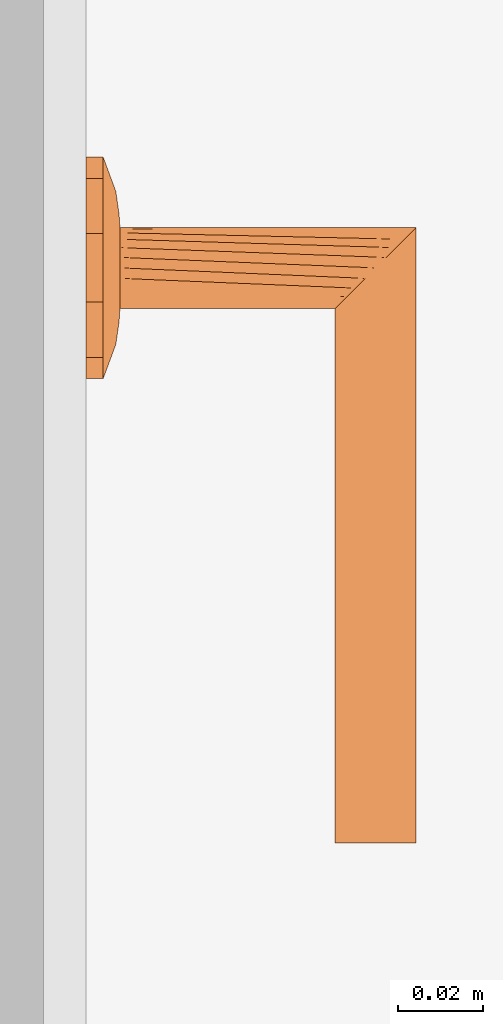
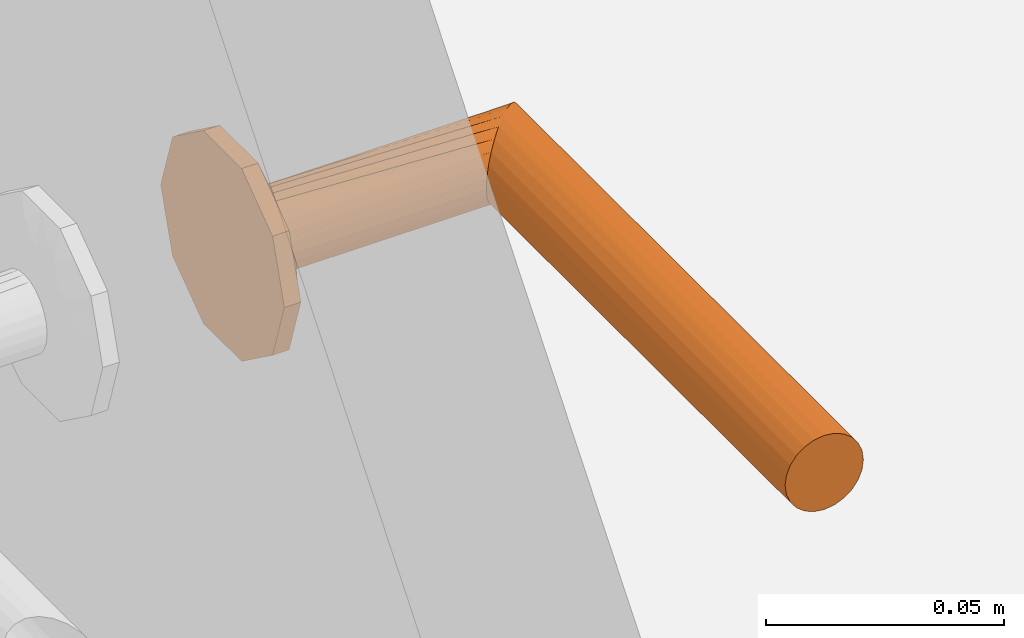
# One storey, part 49 of 68: 1 proxy.
"""IFC2X3 building model written with IfcOpenShell, lengths in millimetres."""

from ifc_helpers import new_model, entity, si_unit, converted_unit, direction, frame, origin, place, context, subcontext, project, spatial, faceted_brep, source, transform, mapped, material, type_object, type_shapes, element, save


model = new_model("IFC2X3")

# Units and contexts
model_context = context("Model", 3, precision=0.01, world=origin(), true_north=direction((6.123233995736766e-17, 1.0)))
plan_context = context("Plan", 3, precision=0.01, world=origin(), true_north=direction((6.123233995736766e-17, 1.0)))
body_context = subcontext(model_context, "Body", "Model", "MODEL_VIEW")
ifc_project = project(units=[si_unit("LENGTHUNIT", "METRE", prefix="MILLI"), converted_unit("PLANEANGLEUNIT", "DEGREE", entity("IfcPlaneAngleMeasure", 0.017453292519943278), si_unit("PLANEANGLEUNIT", "RADIAN"), dimensions=[0, 0, 0, 0, 0, 0, 0]), si_unit("AREAUNIT", "SQUARE_METRE")], contexts=[model_context, plan_context])

# Site, building, storey, space
site_placement = place(None, origin())
site = spatial("IfcSite", under=ifc_project, at=site_placement, Name="Default", CompositionType="ELEMENT")
building_placement = place(site_placement, origin())
building = spatial("IfcBuilding", under=site, at=building_placement, CompositionType="ELEMENT")
storey_placement = place(building_placement, frame((0.0, 0.0, 6295.0)))
storey = spatial("IfcBuildingStorey", under=building, at=storey_placement, Name="3K", CompositionType="ELEMENT", Elevation=6294.999999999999)
space_placement = place(storey_placement, origin())
space = spatial("IfcSpace", under=storey, at=space_placement, Name="3-5.3", CompositionType="ELEMENT", InteriorOrExteriorSpace="INTERNAL")

# Proxy
ifc_material = material(Name="<Unnamed>")
building_element_proxy_type = type_object("IfcBuildingElementProxyType", Name="Door-handle_Lever_ABLOY_INOXI_3-19ss-002_RT:Default", PredefinedType="NOTDEFINED", material=ifc_material)
shared_shape = source(origin(), body_context, "Body", "Brep", [
    faceted_brep([(0.0, 0.0, 0.0), (21.034441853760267, -15.282416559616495, 0.0), (14.534441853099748, -20.00494299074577, 0.0), (8.034441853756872, -24.72746942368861, 0.0), (0.0, -24.72746942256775, 0.0), (23.51722092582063, -7.6412082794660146, 0.0), (26.0, 0.0, 0.0), (-8.034441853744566, -24.727469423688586, 0.0), (-14.534441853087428, -20.00494299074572, 0.0), (-21.03444185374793, -15.282416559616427, 0.0), (-23.517220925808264, -7.641208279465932, 0.0), (-26.0, 0.0, 0.0), (-23.517220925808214, 7.641208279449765, 0.0), (23.517220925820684, 7.641208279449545, 0.0), (21.034441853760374, 15.282416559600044, 0.0), (14.53444185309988, 20.00494299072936, 0.0), (8.034441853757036, 24.72746942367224, 0.0), (-21.034441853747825, 15.282416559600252, 0.0), (-14.53444185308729, 20.004942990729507, 0.0), (-8.0344418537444, 24.72746942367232, 0.0), (0.0, 24.72746942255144, 0.0), (0.0, 0.0, 8.0), (4.7500000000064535, -8.227241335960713, 8.0), (5.937500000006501, -6.170431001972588, 8.0), (7.125000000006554, -4.113620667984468, 8.0), (8.312500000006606, -2.0568103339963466, 8.0), (9.500000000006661, 0.0, 8.0), (8.312500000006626, 2.056810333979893, 8.0), (2.3750000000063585, -8.227241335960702, 8.0), (0.0, -8.227241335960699, 8.0), (-2.3749999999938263, -8.227241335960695, 8.0), (-4.749999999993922, -8.227241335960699, 8.0), (-5.937499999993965, -6.170431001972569, 8.0), (-7.124999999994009, -4.113620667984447, 8.0), (-8.312499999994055, -2.056810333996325, 8.0), (-9.499999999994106, 0.0, 8.0), (7.125000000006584, 4.113620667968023, 8.0), (5.937500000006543, 6.170431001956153, 8.0), (4.750000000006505, 8.227241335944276, 8.0), (2.3750000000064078, 8.22724133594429, 8.0), (-8.31249999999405, 2.0568103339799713, 8.0), (-7.12499999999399, 4.113620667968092, 8.0), (-5.9374999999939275, 6.170431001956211, 8.0), (-4.74999999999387, 8.227241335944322, 8.0), (0.0, 8.227241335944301, 8.0), (-2.374999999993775, 8.227241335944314, 8.0), (-22.488765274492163, -10.806469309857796, 4.030771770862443), (-16.663919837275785, -7.932665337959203, 6.877259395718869), (-20.643071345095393, -6.292822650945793, 5.929480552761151), (-12.50457926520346, -5.179566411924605, 7.774932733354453), (-16.764060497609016, -3.820257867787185, 7.1747985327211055), (-9.071726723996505, -10.311606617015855, 7.7520782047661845), (-11.963426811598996, -8.625290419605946, 7.618343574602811), (-11.979136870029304, -13.678312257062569, 6.945778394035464), (5.7585542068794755, -20.96753300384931, 5.871476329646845), (0.0, -24.72746942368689, 4.030771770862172), (8.03444185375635, -24.727469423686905, 4.030771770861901), (16.66391982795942, -7.932665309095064, 6.877259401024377), (22.488765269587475, -10.806469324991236, 4.03077177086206), (20.64307133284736, -6.29282258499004, 5.929480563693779), (14.534441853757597, -20.004942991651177, 4.030771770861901), (9.499431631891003, -18.64368355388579, 6.154325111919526), (-15.783149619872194, -11.991003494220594, 6.50080018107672), (-21.034441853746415, -15.282416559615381, 4.030771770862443), (-14.53444185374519, -20.00494299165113, 4.030771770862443), (-23.012042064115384, 0.0, 5.135401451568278), (-23.943088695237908, -6.330522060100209, 4.030771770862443), (11.96342678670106, -8.62529049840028, 7.618343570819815), (12.504579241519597, -5.179566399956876, 7.774932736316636), (16.764060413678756, -3.8202578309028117, 7.17479855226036), (15.783149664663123, -11.991003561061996, 6.50080015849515), (17.985351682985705, 0.0, 6.993737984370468), (23.012042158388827, 0.0, 5.135401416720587), (8.661516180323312, -10.478936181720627, 7.768126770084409), (-8.03444185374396, -24.727469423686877, 4.030771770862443), (-3.3573143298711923, -21.197247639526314, 5.971427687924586), (-9.941915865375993, -17.061976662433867, 6.522757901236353), (-5.973257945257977, -16.430139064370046, 7.110979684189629), (-7.711266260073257, -12.760344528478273, 7.594456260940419), (11.979136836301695, -13.678312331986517, 6.945778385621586), (7.511307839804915, -13.358932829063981, 7.529187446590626), (5.953298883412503, -16.50608604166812, 7.096344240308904), (-1.5654593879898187, -15.307443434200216, 7.519134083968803), (-7.784980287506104, -20.476295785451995, 5.812837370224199), (2.8135289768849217, -17.76392260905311, 6.993737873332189), (-17.98535168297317, 0.0, 6.993737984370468), (-26.0, 0.0, 4.030771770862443), (-23.51722092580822, -7.641208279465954, 4.030771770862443), (23.943088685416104, -6.33052209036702, 4.030771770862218), (24.308823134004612, -5.204907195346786, 4.030771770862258), (26.0, 0.0, 4.030771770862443), (21.03444185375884, -15.282416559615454, 4.030771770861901), (22.617646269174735, -10.40981439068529, 4.030771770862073), (22.488765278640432, 10.806469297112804, 4.030771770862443), (16.66391984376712, 7.932665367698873, 6.877259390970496), (20.643071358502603, 6.292822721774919, 5.929480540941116), (12.504579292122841, 5.179566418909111, 7.774932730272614), (16.764060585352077, 3.8202579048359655, 7.174798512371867), (9.07172672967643, 10.31160659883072, 7.752078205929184), (11.963426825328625, 8.62529034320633, 7.618343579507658), (11.979136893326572, 13.67831220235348, 6.9457784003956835), (-5.758554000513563, 20.96753314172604, 5.8714763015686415), (0.0, 24.72746942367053, 4.030771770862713), (-8.03444185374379, 24.72746942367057, 4.030771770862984), (-16.663919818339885, 7.932665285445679, 6.877259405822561), (-22.48876526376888, 10.806469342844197, 4.030771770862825), (-20.643071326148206, 6.2928225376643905, 5.929480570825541), (-14.534441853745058, 20.004942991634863, 4.030771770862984), (-9.499431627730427, 18.643683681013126, 6.154325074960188), (15.783149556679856, 11.991003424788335, 6.5008002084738), (21.03444185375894, 15.282416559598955, 4.030771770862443), (14.534441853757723, 20.004942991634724, 4.030771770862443), (23.943088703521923, 6.330522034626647, 4.030771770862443), (-11.96342675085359, 8.625290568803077, 7.618343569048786), (-12.504579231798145, 5.179566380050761, 7.77493273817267), (-16.764060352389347, 3.820257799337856, 7.174798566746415), (-15.78314967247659, 11.991003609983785, 6.500800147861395), (-8.661516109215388, 10.478936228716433, 7.768126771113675), (8.034441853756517, 24.727469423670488, 4.030771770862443), (3.3573144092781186, 21.197247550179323, 5.971427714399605), (9.941915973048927, 17.061976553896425, 6.522757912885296), (5.9732581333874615, 16.430139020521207, 7.110979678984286), (7.711266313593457, 12.760344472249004, 7.5944562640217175), (-11.979136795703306, 13.678312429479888, 6.945778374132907), (-7.511307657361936, 13.358932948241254, 7.5291874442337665), (-5.9532988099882, 16.50608628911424, 7.096344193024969), (1.5654596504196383, 15.3074431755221, 7.519134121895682), (7.784980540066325, 20.476295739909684, 5.812837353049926), (-2.81352881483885, 17.76392263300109, 6.993737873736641), (23.51722092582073, 7.6412082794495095, 4.030771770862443), (-23.94308867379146, 6.330522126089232, 4.030771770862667), (-24.308823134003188, 5.20490719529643, 4.030771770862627), (-21.034441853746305, 15.282416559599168, 4.030771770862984), (-22.617646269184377, 10.409814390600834, 4.0307717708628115)], [[[0, 1, 2]], [[0, 2, 3]], [[0, 3, 4]], [[0, 5, 1]], [[0, 6, 5]], [[0, 4, 7]], [[0, 7, 8]], [[0, 8, 9]], [[0, 9, 10]], [[0, 10, 11]], [[0, 11, 12]], [[0, 13, 6]], [[0, 14, 13]], [[0, 15, 14]], [[0, 16, 15]], [[0, 12, 17]], [[0, 17, 18]], [[0, 18, 19]], [[0, 19, 20]], [[0, 20, 16]], [[21, 22, 23]], [[21, 23, 24]], [[21, 24, 25]], [[21, 25, 26]], [[21, 26, 27]], [[21, 28, 22]], [[21, 29, 28]], [[21, 30, 29]], [[21, 31, 30]], [[21, 32, 31]], [[21, 33, 32]], [[21, 34, 33]], [[21, 35, 34]], [[21, 27, 36]], [[21, 36, 37]], [[21, 37, 38]], [[21, 38, 39]], [[21, 40, 35]], [[21, 41, 40]], [[21, 42, 41]], [[21, 43, 42]], [[21, 39, 44]], [[21, 44, 45]], [[21, 45, 43]], [[46, 47, 48]], [[47, 49, 50]], [[49, 33, 34]], [[51, 52, 53]], [[49, 52, 33]], [[48, 47, 50]], [[54, 55, 56]], [[57, 58, 59]], [[56, 60, 61]], [[62, 63, 64]], [[65, 66, 48]], [[67, 57, 68]], [[68, 69, 25]], [[57, 67, 70]], [[69, 26, 25]], [[62, 53, 52]], [[71, 69, 72]], [[67, 23, 73]], [[74, 55, 75]], [[76, 77, 78]], [[79, 60, 70]], [[69, 59, 72]], [[80, 81, 61]], [[77, 30, 78]], [[82, 30, 77]], [[28, 80, 22]], [[77, 83, 75]], [[75, 82, 77]], [[55, 84, 75]], [[85, 50, 35]], [[24, 68, 25]], [[82, 84, 29]], [[84, 82, 75]], [[31, 78, 30]], [[82, 29, 30]], [[34, 35, 50]], [[52, 49, 47]], [[62, 52, 47]], [[34, 50, 49]], [[53, 78, 51]], [[32, 33, 52]], [[85, 65, 50]], [[66, 65, 86]], [[67, 68, 24]], [[77, 76, 83]], [[65, 48, 50]], [[63, 62, 46]], [[48, 66, 87, 46]], [[62, 47, 46]], [[69, 68, 57]], [[80, 73, 22]], [[70, 67, 79]], [[67, 24, 23]], [[72, 88, 89, 90]], [[69, 71, 26]], [[59, 69, 57]], [[61, 60, 79]], [[62, 64, 53]], [[91, 58, 70]], [[72, 59, 88]], [[57, 70, 58]], [[59, 58, 92]], [[80, 61, 79]], [[91, 70, 60]], [[61, 81, 54]], [[73, 80, 79]], [[28, 84, 81]], [[67, 73, 79]], [[29, 84, 28]], [[22, 73, 23]], [[51, 31, 32]], [[76, 78, 53]], [[53, 64, 76]], [[83, 64, 74]], [[64, 83, 76]], [[75, 83, 74]], [[31, 51, 78]], [[52, 51, 32]], [[28, 81, 80]], [[54, 81, 84]], [[55, 54, 84]], [[61, 54, 56]], [[93, 94, 95]], [[94, 96, 97]], [[96, 36, 27]], [[98, 99, 100]], [[96, 99, 36]], [[95, 94, 97]], [[101, 102, 103]], [[104, 105, 106]], [[103, 107, 108]], [[109, 110, 111]], [[72, 112, 95]], [[113, 104, 114]], [[114, 115, 40]], [[104, 113, 116]], [[115, 35, 40]], [[109, 100, 99]], [[85, 115, 65]], [[113, 42, 117]], [[118, 102, 119]], [[120, 121, 122]], [[123, 107, 116]], [[115, 106, 65]], [[124, 125, 108]], [[121, 39, 122]], [[126, 39, 121]], [[45, 124, 43]], [[121, 127, 119]], [[119, 126, 121]], [[102, 128, 119]], [[71, 97, 26]], [[41, 114, 40]], [[126, 128, 44]], [[128, 126, 119]], [[38, 122, 39]], [[126, 44, 39]], [[27, 26, 97]], [[99, 96, 94]], [[109, 99, 94]], [[27, 97, 96]], [[100, 122, 98]], [[37, 36, 99]], [[71, 72, 97]], [[112, 72, 90]], [[113, 114, 41]], [[121, 120, 127]], [[72, 95, 97]], [[110, 109, 93]], [[95, 112, 129, 93]], [[109, 94, 93]], [[115, 114, 104]], [[124, 117, 43]], [[116, 113, 123]], [[113, 41, 42]], [[65, 130, 131, 86]], [[115, 85, 35]], [[106, 115, 104]], [[108, 107, 123]], [[109, 111, 100]], [[132, 105, 116]], [[65, 106, 130]], [[104, 116, 105]], [[106, 105, 133]], [[124, 108, 123]], [[132, 116, 107]], [[108, 125, 101]], [[117, 124, 123]], [[45, 128, 125]], [[113, 117, 123]], [[44, 128, 45]], [[43, 117, 42]], [[98, 38, 37]], [[120, 122, 100]], [[100, 111, 120]], [[127, 111, 118]], [[111, 127, 120]], [[119, 127, 118]], [[38, 98, 122]], [[99, 98, 37]], [[45, 125, 124]], [[101, 125, 128]], [[102, 101, 128]], [[108, 101, 103]], [[7, 74, 64, 63, 9, 8]], [[10, 9, 63, 46, 87, 66, 86, 11]], [[6, 90, 89, 88, 92, 1, 5]], [[1, 58, 91]], [[74, 7, 4, 3, 56, 55]], [[60, 56, 3, 2, 1, 91]], [[1, 92, 58]], [[14, 110, 93, 129, 112, 90, 6, 13]], [[111, 110, 14, 15, 16, 118]], [[11, 86, 131, 130, 133, 17, 12]], [[17, 105, 132]], [[118, 16, 20, 19, 103, 102]], [[107, 103, 19, 18, 17, 132]], [[17, 133, 105]], [[59, 92, 88]], [[106, 133, 130]]]),
    faceted_brep([(4.7499999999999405, -8.22724133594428, 8.0), (2.4587809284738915, -9.176295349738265, 8.0), (0.0, -9.499999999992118, 8.0), (-2.4587809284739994, -9.176295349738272, 8.0), (-4.7500000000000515, -8.227241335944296, 8.0), (-6.717514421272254, -6.717514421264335, 8.0), (-8.227241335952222, -4.74999999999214, 8.0), (-9.176295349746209, -2.4587809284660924, 8.0), (-9.500000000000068, 0.0, 8.0), (-9.176295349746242, 2.458780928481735, 8.0), (-8.227241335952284, 4.750000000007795, 8.0), (-6.717514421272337, 6.717514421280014, 8.0), (-4.750000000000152, 8.227241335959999, 8.0), (-2.4587809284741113, 9.176295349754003, 8.0), (0.0, 9.500000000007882, 8.0), (2.4587809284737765, 9.176295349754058, 8.0), (4.7499999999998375, 8.227241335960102, 8.0), (6.717514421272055, 6.717514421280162, 8.0), (8.22724133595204, 4.75000000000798, 8.0), (9.17629534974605, 2.458780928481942, 8.0), (9.499999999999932, 0.0, 8.0), (9.17629534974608, -2.458780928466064, 8.0), (8.227241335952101, -4.749999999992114, 8.0), (6.717514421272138, -6.7175144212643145, 8.0), (-8.227241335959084, 4.7499999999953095, 59.772758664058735), (-6.717514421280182, 6.7175144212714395, 61.282485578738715), (-9.176295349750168, 2.458780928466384, 58.82370465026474), (-4.750000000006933, 8.227241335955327, 63.25000000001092), (-2.4587809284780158, 9.176295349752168, 65.54121907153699), (-9.500000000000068, 0.0, 58.50000000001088), (0.0, 9.50000000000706, 68.0), (4.750000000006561, 8.227241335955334, 72.75000000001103), (2.4587809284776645, 9.17629534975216, 70.45878092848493), (6.717514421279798, 6.7175144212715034, 74.71751442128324), (8.22724133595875, 4.749999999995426, 76.22724133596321), (9.17629534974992, 2.458780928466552, 77.17629534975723), (9.499999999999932, 0.0, 77.50000000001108), (9.176295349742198, -2.4587809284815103, 77.1762953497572), (8.227241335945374, -4.750000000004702, 76.22724133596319), (6.7175144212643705, -6.717514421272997, 74.7175144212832), (4.749999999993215, -8.227241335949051, 72.75000000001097), (2.4587809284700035, -9.17629534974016, 70.45878092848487), (0.0, -9.49999999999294, 68.0), (-2.4587809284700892, -9.176295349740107, 65.54121907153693), (-4.749999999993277, -8.227241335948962, 63.250000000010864), (-6.717514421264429, -6.717514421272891, 61.282485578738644), (-9.176295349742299, -2.458780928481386, 58.8237046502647), (-8.227241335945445, -4.750000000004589, 59.77275866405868), (-135.0, -9.176295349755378, 70.4587809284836), (-135.0, -8.227241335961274, 72.75000000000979), (-135.0, -6.717514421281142, 74.71751442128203), (-135.0, -4.750000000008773, 76.22724133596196), (-135.0, -2.4587809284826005, 77.17629534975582), (-135.0, 0.0, 77.5000000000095), (-135.0, 2.4587809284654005, 77.17629534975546), (-135.0, 4.749999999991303, 76.22724133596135), (-135.0, 6.717514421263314, 74.71751442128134), (-135.0, 8.227241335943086, 72.75000000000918), (-135.0, 9.17629534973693, 70.45878092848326), (-135.0, 9.499999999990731, 68.0), (-135.0, 9.17629534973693, 65.54121907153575), (-135.0, 8.227241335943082, 63.250000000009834), (-135.0, 6.717514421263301, 61.28248557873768), (-135.0, 4.749999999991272, 59.772758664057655), (-135.0, 2.458780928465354, 58.823704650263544), (-135.0, 0.0, 58.50000000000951), (-135.0, -2.458780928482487, 58.82370465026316), (-135.0, -4.750000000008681, 59.772758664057), (-135.0, -6.7175144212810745, 61.28248557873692), (-135.0, -8.227241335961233, 63.25000000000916), (-135.0, -9.176295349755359, 65.54121907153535), (-135.0, -9.500000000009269, 68.0)], [[[0, 1, 2, 3, 4, 5, 6, 7, 8, 9, 10, 11, 12, 13, 14, 15, 16, 17, 18, 19, 20, 21, 22, 23]], [[24, 25, 11, 10]], [[26, 24, 10, 9]], [[14, 27, 28]], [[13, 27, 14]], [[25, 27, 13]], [[29, 26, 9, 8]], [[12, 11, 25]], [[25, 13, 12]], [[28, 30, 15]], [[31, 17, 32]], [[33, 18, 31]], [[19, 34, 35]], [[33, 34, 19]], [[20, 19, 35, 36]], [[16, 15, 30]], [[14, 28, 15]], [[19, 18, 33]], [[17, 31, 18]], [[17, 16, 32]], [[30, 32, 16]], [[20, 36, 37, 21]], [[38, 21, 37]], [[22, 39, 40]], [[38, 39, 21]], [[23, 40, 41]], [[39, 22, 21]], [[1, 42, 43]], [[42, 1, 0]], [[23, 41, 0]], [[23, 22, 40]], [[41, 42, 0]], [[44, 45, 3]], [[43, 44, 2]], [[46, 29, 8, 7]], [[47, 46, 7, 6]], [[45, 47, 6, 5]], [[45, 4, 3]], [[3, 2, 44]], [[5, 4, 45]], [[43, 2, 1]], [[48, 49, 50, 51, 52, 53, 54, 55, 56, 57, 58, 59, 60, 61, 62, 63, 64, 65, 66, 67, 68, 69, 70, 71]], [[64, 63, 24, 26]], [[65, 64, 26, 29]], [[61, 60, 28, 27]], [[62, 61, 27, 25]], [[63, 62, 25, 24]], [[59, 30, 28, 60]], [[57, 56, 33, 31]], [[58, 57, 31, 32]], [[54, 53, 36, 35]], [[55, 54, 35, 34]], [[56, 55, 34, 33]], [[32, 30, 59, 58]], [[52, 51, 38, 37]], [[53, 52, 37, 36]], [[49, 48, 41, 40]], [[50, 49, 40, 39]], [[51, 50, 39, 38]], [[42, 41, 48, 71]], [[69, 68, 45, 44]], [[70, 69, 44, 43]], [[66, 65, 29, 46]], [[67, 66, 46, 47]], [[68, 67, 47, 45]], [[42, 71, 70, 43]]]),
])
type_shapes(building_element_proxy_type, [shared_shape])
proxy_placement = place(space_placement, frame((-86.01000000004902, 12859.0, 1000.0), z_axis=(1.0, 0.0, 0.0), x_axis=(0.0, 1.0, 0.0)))
element("IfcBuildingElementProxy", 1, at=proxy_placement, inside=space, type_object=building_element_proxy_type, material=ifc_material, Name="Door-handle_Lever_ABLOY_INOXI_3-19ss-002_RT:Default", ObjectType="Door-handle_Lever_ABLOY_INOXI_3-19ss-002_RT:Default", context=body_context, shape_type="MappedRepresentation", body=[
    mapped(shared_shape, transform((0.0, 0.0, 0.0), scale=1.0)),
])

save(model, "model.ifc")
